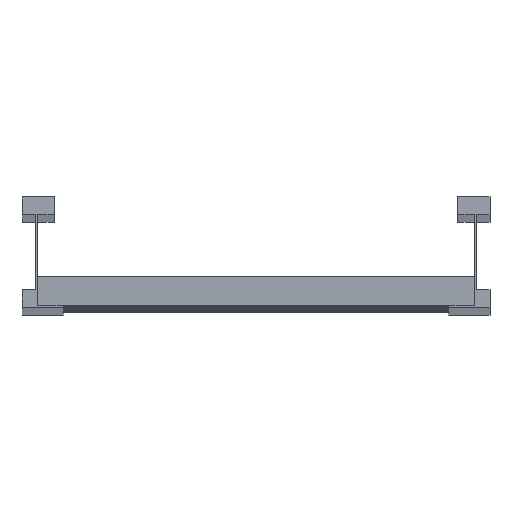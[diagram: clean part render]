
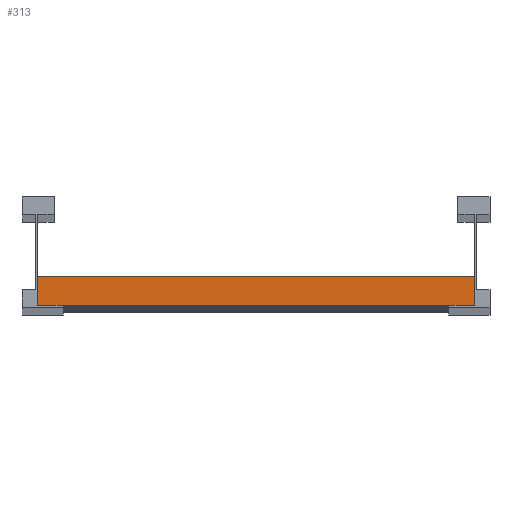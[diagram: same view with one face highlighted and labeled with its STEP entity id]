
A CAD part, top view. The second image highlights one B-rep face of the part: STEP entity #313.
In plain terms, the highlighted planar face has unit normal (0, 0, 1).
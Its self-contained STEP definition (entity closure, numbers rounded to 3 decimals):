
#35 = VECTOR ( 'NONE', #1128, 1000. ) ;
#313 = ADVANCED_FACE ( 'NONE', ( #1637 ), #3017, .F. ) ;
#567 = DIRECTION ( 'NONE',  ( 0., -1., 0. ) ) ;
#576 = VECTOR ( 'NONE', #567, 1000. ) ;
#929 = VERTEX_POINT ( 'NONE', #5932 ) ;
#960 = ORIENTED_EDGE ( 'NONE', *, *, #5029, .F. ) ;
#991 = DIRECTION ( 'NONE',  ( -1., 0., 0. ) ) ;
#1128 = DIRECTION ( 'NONE',  ( 0., -1., 0. ) ) ;
#1173 = DIRECTION ( 'NONE',  ( 0., 1., 0. ) ) ;
#1550 = CARTESIAN_POINT ( 'NONE',  ( 148.5, 20., 20.25 ) ) ;
#1566 = AXIS2_PLACEMENT_3D ( 'NONE', #1550, #4922, #1173 ) ;
#1579 = EDGE_CURVE ( 'NONE', #5616, #3672, #3164, .T. ) ;
#1627 = VERTEX_POINT ( 'NONE', #3848 ) ;
#1637 = FACE_OUTER_BOUND ( 'NONE', #4210, .T. ) ;
#1858 = EDGE_CURVE ( 'NONE', #929, #3672, #2818, .T. ) ;
#2005 = CARTESIAN_POINT ( 'NONE',  ( -148.5, 20., 20.25 ) ) ;
#2172 = EDGE_CURVE ( 'NONE', #1627, #5616, #4208, .T. ) ;
#2557 = VECTOR ( 'NONE', #5850, 1000. ) ;
#2751 = ORIENTED_EDGE ( 'NONE', *, *, #1579, .T. ) ;
#2818 = LINE ( 'NONE', #4714, #2557 ) ;
#2866 = CARTESIAN_POINT ( 'NONE',  ( 148.5, 20., 20.25 ) ) ;
#2947 = CARTESIAN_POINT ( 'NONE',  ( 148.5, 20., 20.25 ) ) ;
#3017 = PLANE ( 'NONE',  #1566 ) ;
#3164 = LINE ( 'NONE', #2005, #576 ) ;
#3449 = ORIENTED_EDGE ( 'NONE', *, *, #2172, .T. ) ;
#3495 = ORIENTED_EDGE ( 'NONE', *, *, #1858, .F. ) ;
#3670 = CARTESIAN_POINT ( 'NONE',  ( -148.5, 20., 20.25 ) ) ;
#3672 = VERTEX_POINT ( 'NONE', #4500 ) ;
#3848 = CARTESIAN_POINT ( 'NONE',  ( 148.5, 20., 20.25 ) ) ;
#4208 = LINE ( 'NONE', #2866, #5750 ) ;
#4210 = EDGE_LOOP ( 'NONE', ( #2751, #3495, #960, #3449 ) ) ;
#4410 = LINE ( 'NONE', #2947, #35 ) ;
#4500 = CARTESIAN_POINT ( 'NONE',  ( -148.5, 0., 20.25 ) ) ;
#4714 = CARTESIAN_POINT ( 'NONE',  ( 148.5, 0., 20.25 ) ) ;
#4922 = DIRECTION ( 'NONE',  ( 0., 0., -1. ) ) ;
#5029 = EDGE_CURVE ( 'NONE', #1627, #929, #4410, .T. ) ;
#5616 = VERTEX_POINT ( 'NONE', #3670 ) ;
#5750 = VECTOR ( 'NONE', #991, 1000. ) ;
#5850 = DIRECTION ( 'NONE',  ( -1., 0., 0. ) ) ;
#5932 = CARTESIAN_POINT ( 'NONE',  ( 148.5, 0., 20.25 ) ) ;
